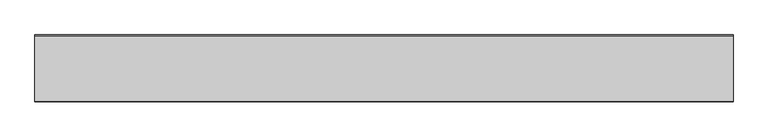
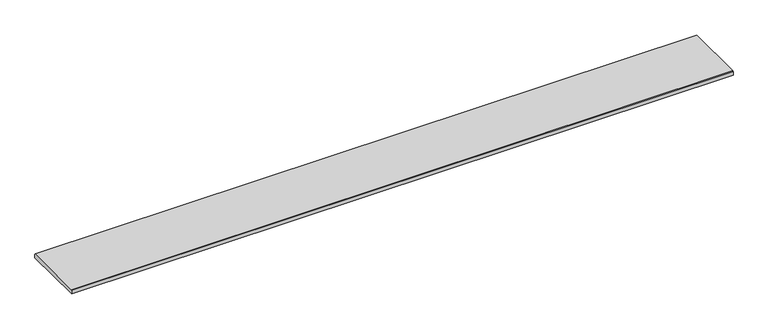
"""IFC4 building model written with IfcOpenShell, lengths in millimetres: proxy geometry."""

from ifc_helpers import new_model, si_unit, frame, origin, place, context, project, spatial, polyline, outline, extrude, source, transform, mapped, element, save


def generic_models_bca984fe(model_context):
    return source(origin(), model_context, "Body", "SweptSolid", [
        extrude(outline(polyline([(0.0, 13.629936), (2.245064, 15.875), (231.688936, 15.875), (233.934, 13.629936), (233.934, 0.0), (0.0, 0.0), (0.0, 13.629936)])), frame((0.0, 0.0, 0.0), z_axis=(1.0, 0.0, 0.0), x_axis=(0.0, 1.0, 0.0)), (0.0, 0.0, 1.0), 2438.4),
    ])


if __name__ == "__main__":
    model = new_model("IFC4")
    model_context = context("Model", 3, world=origin())
    ifc_project = project(units=[si_unit("LENGTHUNIT", "METRE", prefix="MILLI")], contexts=[model_context])
    site = spatial("IfcSite", under=ifc_project)
    building = spatial("IfcBuilding", under=site)
    placement = place(None, origin())
    generic_models_shape = generic_models_bca984fe(model_context)
    element("IfcBuildingElementProxy", 1, Name="440 Series Reversible Trim (Fiber) : 440 Series Reversible Trim (Fiber) - 9.21\"", ObjectType="440 Series Reversible Trim (Fiber) : 440 Series Reversible Trim (Fiber) - 9.21\"", at=placement, inside=building, context=model_context, shape_type="MappedRepresentation", body=[
        mapped(generic_models_shape, transform((0.0, 0.0, 0.0), x_axis=(1.0, 0.0, 0.0), y_axis=(0.0, 1.0, 0.0), z_axis=(0.0, 0.0, 1.0))),
    ])
    save(model, "model.ifc")
